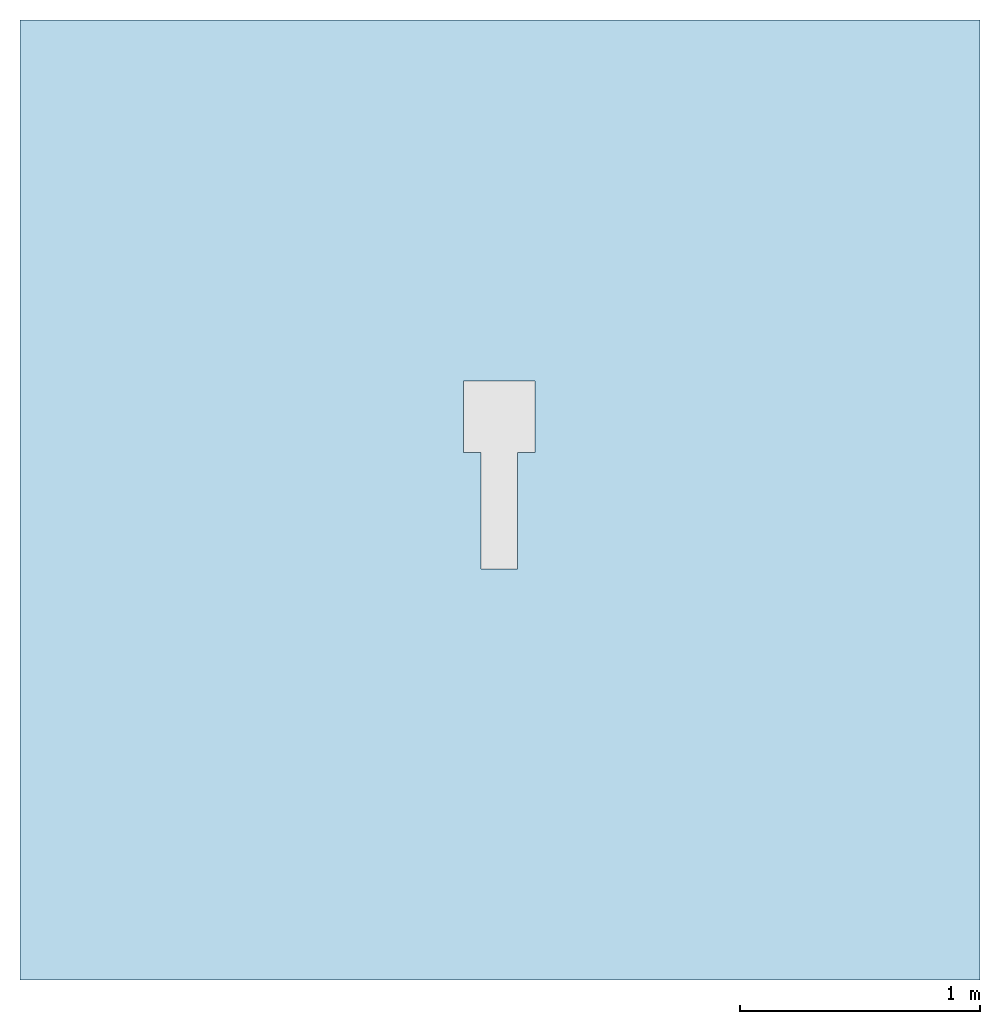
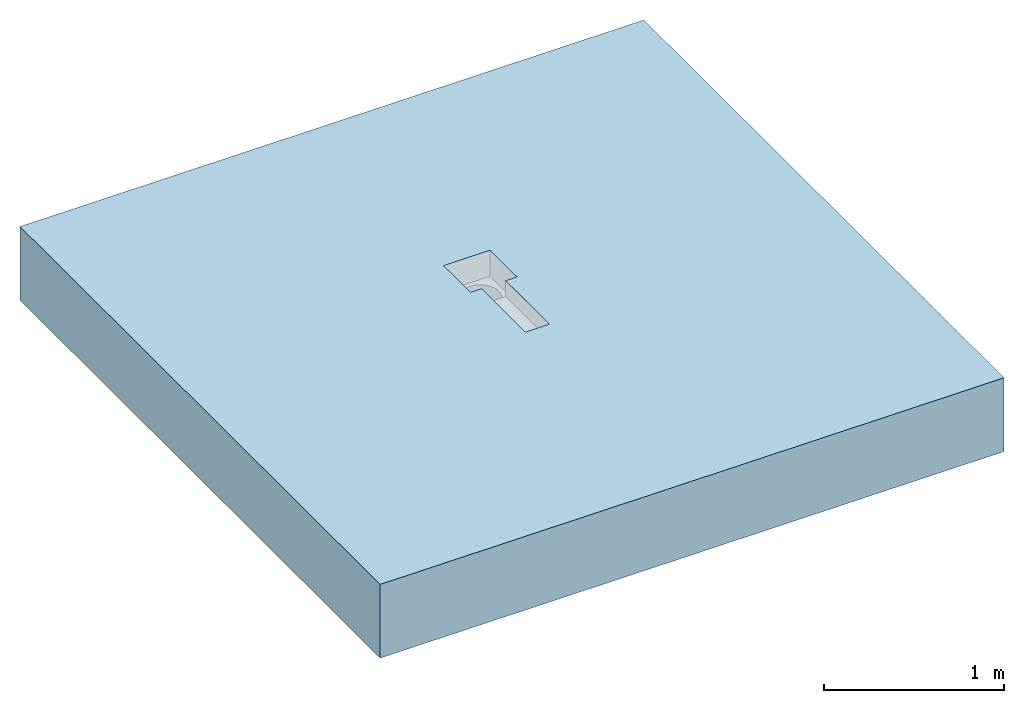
# One storey, incomplete: 1 slab, 1 opening.
"""IFC2X3 building model written with IfcOpenShell, lengths in millimetres."""

from ifc_helpers import new_model, entity, si_unit, converted_unit, direction, frame, frame_2d, origin, place, context, subcontext, project, spatial, rectangle, extrude, faceted_brep, material, layer, layer_set, layer_usage, element, save


model = new_model("IFC2X3")

# Units and contexts
model_context = context("Model", 3, precision=1e-06, world=origin(), true_north=direction((2.0, 6.12303176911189e-17, 1.0)))
context_of_model = context(None, 3, precision=1e-06, world=origin(), true_north=direction((2.0, 6.12303176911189e-17, 1.0)))
body_context = subcontext(model_context, "Body", "Model", "MODEL_VIEW")
ifc_project = project(units=[si_unit("LENGTHUNIT", "METRE", prefix="MILLI"), si_unit("AREAUNIT", "SQUARE_METRE", prefix="MILLI"), si_unit("VOLUMEUNIT", "CUBIC_METRE", prefix="MILLI"), converted_unit("PLANEANGLEUNIT", "DEGREE", entity("IfcRatioMeasure", 0.0174532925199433), si_unit("PLANEANGLEUNIT", "RADIAN"), dimensions=[0, 0, 0, 0, 0, 0, 0]), si_unit("TIMEUNIT", "SECOND")], contexts=[model_context, context_of_model])

# Site, building, storey
site_placement = place(None, origin())
site = spatial("IfcSite", under=ifc_project, at=site_placement, Name="Default", CompositionType="ELEMENT")
building_placement = place(site_placement, origin())
building = spatial("IfcBuilding", under=site, at=building_placement, CompositionType="ELEMENT")
storey_placement = place(building_placement, origin())
storey = spatial("IfcBuildingStorey", under=building, at=storey_placement, Name="Level 1", CompositionType="ELEMENT", Elevation=0.0)

# Slab, opening
ifc_material = material(Name="Concrete, Broom Finish")
ifc_layer = layer(ifc_material, 500.0)
ifc_layer_set = layer_set([ifc_layer], Name="Floor:Generic Floor - 500mm")
ifc_layer_usage = layer_usage(ifc_layer_set, "AXIS3", "POSITIVE", 0.0)
slab_placement = place(storey_placement, origin())
slab = element("IfcSlab", 1, at=slab_placement, inside=storey, material=ifc_layer_usage, Name="Floor:Generic Floor - 500mm", ObjectType="Floor:Generic Floor - 500mm", PredefinedType="FLOOR", context=body_context, shape_type="SweptSolid", body=[
    extrude(rectangle(XDim=4000.0, YDim=4000.0, at=frame_2d((0.0, 0.0), x_axis=(-1.0, 0.0))), frame((-419.114478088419, -735.273497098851, 0.0), z_axis=(0.0, 0.0, -1.0), x_axis=(-1.0, 0.0, 0.0)), (0.0, 0.0, 1.0), 500.0),
])
opening_placement = place(slab_placement, frame((-571.042058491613, -1023.16245801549, -408.300000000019)))
element("IfcOpeningElement", 2, at=opening_placement, cuts=slab, ObjectType="Recess", context=body_context, shape_type="Brep", body=[
    faceted_brep([(72.5000000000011, 0.0, 408.299999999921), (225.499999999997, 0.0, 300.499999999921), (72.5000000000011, 0.0, 300.499999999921), (225.499999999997, 0.0, 408.300000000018), (225.499999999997, 486.0, 408.300000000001), (225.499999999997, 486.0, 300.499999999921), (72.5000000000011, 486.0, 300.499999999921), (72.5000000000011, 486.0, 408.299999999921), (0.0, 784.0, 408.299999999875), (298.0, 784.0, 408.300000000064), (298.0, 486.0, 408.300000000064), (0.0, 486.0, 408.299999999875), (33.0889008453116, 666.058285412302, 232.050000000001), (45.076951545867, 695.0, 232.050000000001), (0.0, 784.0, 232.050000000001), (64.1471862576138, 719.852813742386, 232.050000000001), (29.0, 635.0, 232.050000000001), (117.941714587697, 750.911099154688, 232.050000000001), (149.0, 755.0, 232.050000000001), (89.0, 738.923048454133, 232.050000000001), (298.0, 784.0, 232.050000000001), (33.0889008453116, 603.941714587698, 232.050000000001), (0.0, 486.0, 232.050000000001), (45.0769515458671, 575.0, 232.050000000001), (64.1471862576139, 550.147186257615, 232.050000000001), (117.941714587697, 519.088900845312, 232.050000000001), (89.0, 531.076951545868, 232.050000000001), (149.0, 515.0, 232.050000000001), (180.058285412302, 750.911099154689, 232.050000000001), (209.0, 738.923048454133, 232.050000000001), (233.852813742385, 719.852813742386, 232.050000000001), (264.911099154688, 666.058285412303, 232.050000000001), (252.923048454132, 695.0, 232.050000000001), (269.0, 635.0, 232.050000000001), (298.0, 486.0, 232.050000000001), (209.0, 531.076951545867, 232.050000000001), (180.058285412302, 519.088900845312, 232.050000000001), (264.911099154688, 603.941714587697, 232.050000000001), (252.923048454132, 575.0, 232.050000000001), (233.852813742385, 550.147186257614, 232.050000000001), (180.058285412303, 750.911099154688, 0.0), (149.0, 755.0, 0.0), (233.852813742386, 719.852813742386, 0.0), (209.0, 738.923048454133, 0.0), (264.911099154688, 666.058285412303, 0.0), (252.923048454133, 695.0, 0.0), (45.0769515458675, 695.0, 0.0), (29.0, 635.0, 0.0), (64.1471862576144, 719.852813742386, 0.0), (89.0, 738.923048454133, 0.0), (117.941714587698, 750.911099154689, 0.0), (33.0889008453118, 666.058285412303, 0.0), (45.0769515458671, 575.0, 0.0), (264.911099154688, 603.941714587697, 0.0), (64.1471862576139, 550.147186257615, 0.0), (252.923048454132, 575.0, 0.0), (233.852813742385, 550.147186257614, 0.0), (180.058285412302, 519.088900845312, 0.0), (209.0, 531.076951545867, 0.0), (33.0889008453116, 603.941714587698, 0.0), (117.941714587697, 519.088900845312, 0.0), (149.0, 515.0, 0.0), (89.0, 531.076951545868, 0.0), (269.0, 635.0, 0.0)], [[[0, 1, 2]], [[1, 0, 3]], [[1, 4, 5]], [[4, 1, 3]], [[1, 5, 6]], [[6, 2, 1]], [[2, 6, 7]], [[7, 0, 2]], [[8, 9, 4]], [[9, 10, 4]], [[7, 11, 8]], [[3, 0, 7]], [[7, 4, 3]], [[8, 4, 7]], [[12, 13, 14]], [[15, 14, 13]], [[16, 12, 14]], [[14, 17, 18]], [[14, 15, 19]], [[14, 19, 17]], [[18, 20, 14]], [[21, 16, 22]], [[14, 22, 16]], [[23, 21, 22]], [[22, 24, 23]], [[22, 25, 26]], [[22, 26, 24]], [[27, 25, 22]], [[20, 28, 29]], [[20, 29, 30]], [[31, 20, 32]], [[30, 32, 20]], [[20, 31, 33]], [[33, 34, 20]], [[20, 18, 28]], [[34, 35, 36]], [[34, 36, 27]], [[34, 37, 38]], [[35, 34, 39]], [[38, 39, 34]], [[34, 33, 37]], [[22, 34, 27]], [[8, 14, 20]], [[20, 9, 8]], [[9, 20, 34]], [[34, 10, 9]], [[6, 5, 34]], [[10, 34, 5]], [[11, 6, 22]], [[34, 22, 6]], [[5, 4, 10]], [[6, 11, 7]], [[11, 22, 14]], [[14, 8, 11]], [[40, 41, 42]], [[43, 40, 42]], [[44, 45, 42]], [[46, 42, 41]], [[44, 42, 47]], [[48, 46, 49]], [[41, 50, 49]], [[51, 47, 46]], [[46, 41, 49]], [[46, 47, 42]], [[47, 52, 44]], [[53, 44, 54]], [[55, 53, 56]], [[53, 57, 58]], [[56, 53, 58]], [[57, 53, 54]], [[44, 52, 54]], [[52, 47, 59]], [[60, 61, 62]], [[54, 62, 61]], [[57, 54, 61]], [[44, 53, 63]], [[52, 59, 21]], [[52, 23, 54]], [[60, 62, 26]], [[24, 62, 54]], [[61, 60, 25]], [[47, 16, 59]], [[16, 21, 59]], [[21, 23, 52]], [[23, 24, 54]], [[62, 24, 26]], [[26, 25, 60]], [[25, 27, 61]], [[58, 57, 36]], [[58, 35, 56]], [[53, 55, 38]], [[39, 55, 56]], [[63, 53, 37]], [[27, 36, 57]], [[36, 35, 58]], [[35, 39, 56]], [[39, 38, 55]], [[53, 38, 37]], [[37, 33, 63]], [[61, 27, 57]], [[31, 44, 63]], [[40, 43, 29]], [[42, 30, 43]], [[40, 28, 41]], [[33, 31, 63]], [[45, 44, 31]], [[32, 45, 31]], [[32, 42, 45]], [[32, 30, 42]], [[43, 30, 29]], [[29, 28, 40]], [[28, 18, 41]], [[49, 50, 17]], [[49, 19, 48]], [[51, 46, 13]], [[15, 46, 48]], [[47, 51, 12]], [[18, 17, 50]], [[17, 19, 49]], [[19, 15, 48]], [[15, 13, 46]], [[51, 13, 12]], [[12, 16, 47]], [[41, 18, 50]]]),
])

save(model, "model.ifc")
